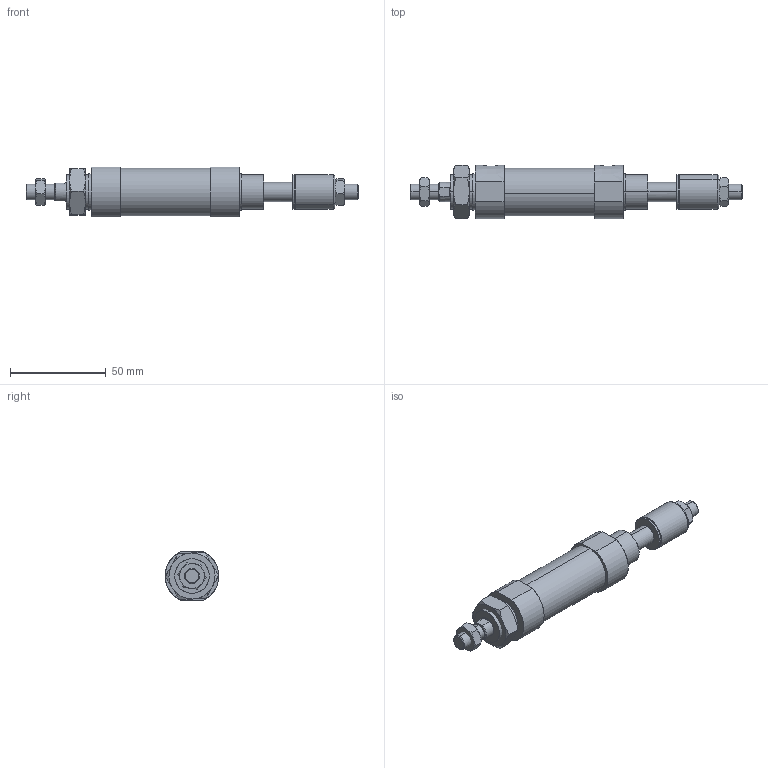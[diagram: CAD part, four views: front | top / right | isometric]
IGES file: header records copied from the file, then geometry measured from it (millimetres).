
Start section: SolidWorks IGES file using analytic representation for surfaces
Global section: file name: C:\Users\Toshiba\Desktop\JGA7-20-15-N.IGS; native system: SolidWorks 2014; preprocessor: SolidWorks 2014; author: Toshiba; date: 160420.092035; units: millimetre
Bounding box: 173 x 28 x 26 mm (x, y, z)
Surface area: 18794.5 mm2 (no closed solid volume)
Topology: 0 solids, 0 shells, 145 faces, 2636 edges, 2636 vertices
Faces by surface type: bspline 95, revolution 50
